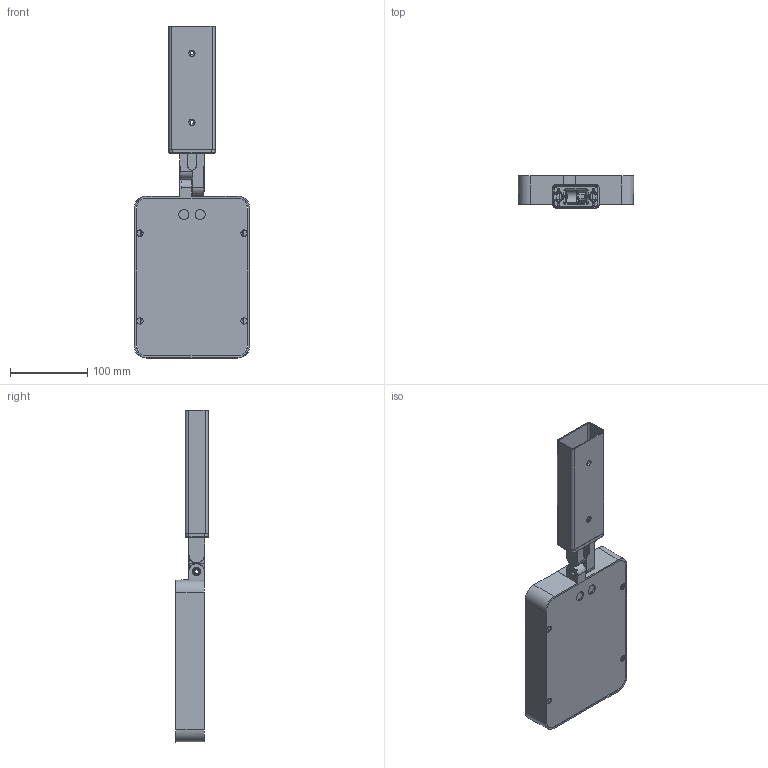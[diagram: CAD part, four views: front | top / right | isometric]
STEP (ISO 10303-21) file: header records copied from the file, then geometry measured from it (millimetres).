
FILE_DESCRIPTION((''),'2;1');
FILE_NAME('TAG210-COB-ASIMM-CITI_SW0006','2025-07-29T09:46:38',('Piccioli'),(''),'CREO PARAMETRIC BY PTC INC, 2025010','CREO PARAMETRIC BY PTC INC, 2025010','');
FILE_SCHEMA(('CONFIG_CONTROL_DESIGN'));
Products named in the file (1): TAG210-COB-ASIMM-CITI_SW0006
Bounding box: 150 x 42 x 430.5 mm (x, y, z)
Surface area: 277349.7 mm2 (no closed solid volume)
Topology: 0 solids, 81 shells, 612 faces, 2818 edges, 2247 vertices
Faces by surface type: plane 213, cylinder 157, cone 120, bspline 68, torus 54
Entity records: 43798 total; most frequent: CARTESIAN_POINT 22864, DIRECTION 4070, ORIENTED_EDGE 3702, EDGE_CURVE 2818, VERTEX_POINT 2247, AXIS2_PLACEMENT_3D 1385, VECTOR 1300, LINE 1300
